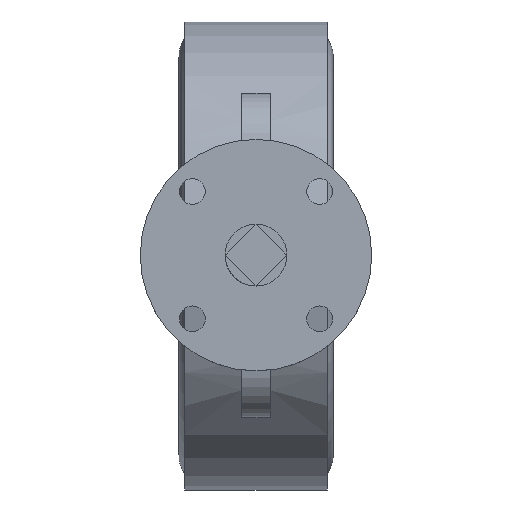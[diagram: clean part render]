
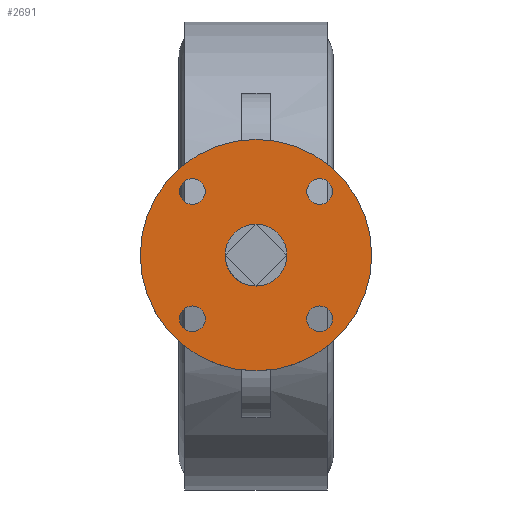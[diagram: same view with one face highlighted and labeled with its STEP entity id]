
A CAD part, top view. The second image highlights one B-rep face of the part: STEP entity #2691.
In plain terms, the highlighted planar face has unit normal (0, 0, 1).
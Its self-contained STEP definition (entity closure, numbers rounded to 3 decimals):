
#2691=ADVANCED_FACE('',(#5321,#5323,#5325,#5327,#5329,#5331),#5333,.T.);
#5321=FACE_BOUND('',#5322,.T.);
#5322=EDGE_LOOP('',(#8298));
#5323=FACE_BOUND('',#5324,.T.);
#5324=EDGE_LOOP('',(#8299));
#5325=FACE_BOUND('',#5326,.T.);
#5326=EDGE_LOOP('',(#8300));
#5327=FACE_BOUND('',#5328,.T.);
#5328=EDGE_LOOP('',(#8301));
#5329=FACE_BOUND('',#5330,.T.);
#5330=EDGE_LOOP('',(#8302));
#5331=FACE_BOUND('',#5332,.T.);
#5332=EDGE_LOOP('',(#8303));
#5333=PLANE('',#5334);
#5334=AXIS2_PLACEMENT_3D('',#5335,#5336,#5337);
#5335=CARTESIAN_POINT('',(0.,0.,190.));
#5336=DIRECTION('',(0.,0.,1.));
#5337=DIRECTION('',(0.,-1.,0.));
#8298=ORIENTED_EDGE('',*,*,#9416,.T.);
#8299=ORIENTED_EDGE('',*,*,#9481,.T.);
#8300=ORIENTED_EDGE('',*,*,#9417,.T.);
#8301=ORIENTED_EDGE('',*,*,#9418,.T.);
#8302=ORIENTED_EDGE('',*,*,#9419,.T.);
#8303=ORIENTED_EDGE('',*,*,#9420,.T.);
#9416=EDGE_CURVE('',#11050,#11050,#11051,.T.);
#9417=EDGE_CURVE('',#11052,#11052,#11053,.F.);
#9418=EDGE_CURVE('',#11054,#11054,#11055,.F.);
#9419=EDGE_CURVE('',#11056,#11056,#11057,.F.);
#9420=EDGE_CURVE('',#11058,#11058,#11059,.F.);
#9481=EDGE_CURVE('',#11151,#11151,#11152,.F.);
#11050=VERTEX_POINT('',#15166);
#11051=CIRCLE('',#15167,45.);
#11052=VERTEX_POINT('',#15171);
#11053=CIRCLE('',#15172,5.);
#11054=VERTEX_POINT('',#15176);
#11055=CIRCLE('',#15177,5.);
#11056=VERTEX_POINT('',#15181);
#11057=CIRCLE('',#15182,5.);
#11058=VERTEX_POINT('',#15186);
#11059=CIRCLE('',#15187,5.);
#11151=VERTEX_POINT('',#15528);
#11152=CIRCLE('',#15529,12.021);
#15166=CARTESIAN_POINT('',(-45.,0.,190.));
#15167=AXIS2_PLACEMENT_3D('',#15168,#15169,#15170);
#15168=CARTESIAN_POINT('',(0.,0.,190.));
#15169=DIRECTION('',(0.,0.,1.));
#15170=DIRECTION('',(-1.,0.,0.));
#15171=CARTESIAN_POINT('',(-29.749,-24.749,190.));
#15172=AXIS2_PLACEMENT_3D('',#15173,#15174,#15175);
#15173=CARTESIAN_POINT('',(-24.749,-24.749,190.));
#15174=DIRECTION('',(0.,0.,1.));
#15175=DIRECTION('',(-1.,0.,0.));
#15176=CARTESIAN_POINT('',(24.749,-29.749,190.));
#15177=AXIS2_PLACEMENT_3D('',#15178,#15179,#15180);
#15178=CARTESIAN_POINT('',(24.749,-24.749,190.));
#15179=DIRECTION('',(0.,0.,1.));
#15180=DIRECTION('',(0.,-1.,0.));
#15181=CARTESIAN_POINT('',(29.749,24.749,190.));
#15182=AXIS2_PLACEMENT_3D('',#15183,#15184,#15185);
#15183=CARTESIAN_POINT('',(24.749,24.749,190.));
#15184=DIRECTION('',(0.,0.,1.));
#15185=DIRECTION('',(1.,0.,0.));
#15186=CARTESIAN_POINT('',(-24.749,29.749,190.));
#15187=AXIS2_PLACEMENT_3D('',#15188,#15189,#15190);
#15188=CARTESIAN_POINT('',(-24.749,24.749,190.));
#15189=DIRECTION('',(0.,0.,1.));
#15190=DIRECTION('',(0.,1.,0.));
#15528=CARTESIAN_POINT('',(0.,-12.021,190.));
#15529=AXIS2_PLACEMENT_3D('',#15530,#15531,#15532);
#15530=CARTESIAN_POINT('',(0.,0.,190.));
#15531=DIRECTION('',(0.,0.,1.));
#15532=DIRECTION('',(0.,-1.,0.));
